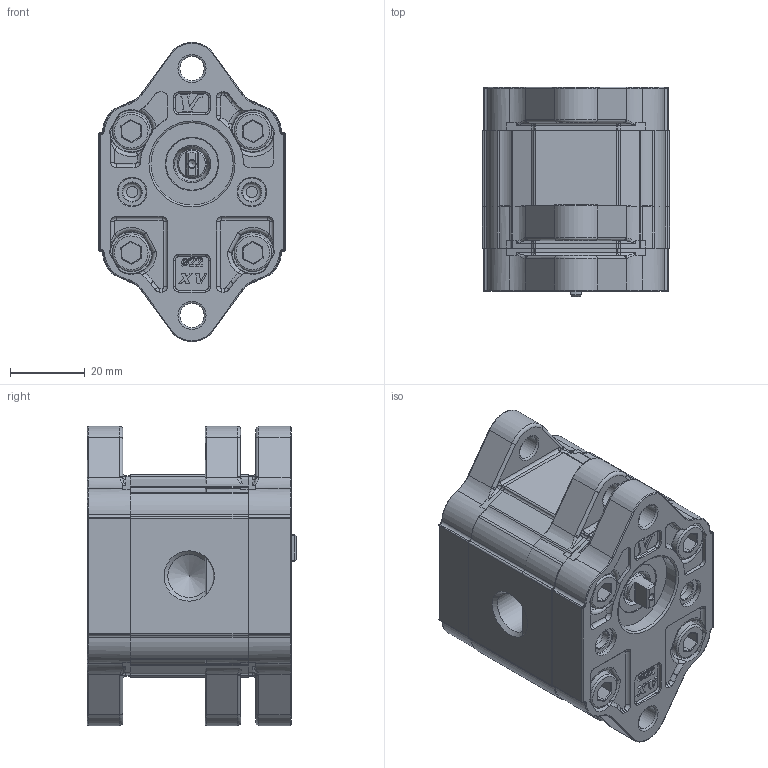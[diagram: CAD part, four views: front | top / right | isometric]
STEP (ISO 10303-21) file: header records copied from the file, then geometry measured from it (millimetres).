
FILE_DESCRIPTION( ( 'Unknown' ), '1' );
FILE_NAME( 'P:/montaggio_easy/output/STP/X0I0421MBBA.stp', 'Unknown', ( 'Unknown' ), ( 'Unknown' ), 'PSStep 14.0', 'Unknown', ' ' );
FILE_SCHEMA( ( 'AUTOMOTIVE_DESIGN { 1 0 10303 214 1 1 1 1 }' ) );
Length unit declared in the file: millimetre
Products named in the file (5): Assem1; X0I21; 0M; X0BBH31,5; XI001-A
Bounding box: 50 x 56 x 79.95 mm (x, y, z)
Surface area: 73757.1 mm2
Topology: 8 solids, 14 shells, 2214 faces, 5808 edges, 3652 vertices
Faces by surface type: plane 860, cylinder 668, torus 298, cone 150, bspline 150, extrusion 72, sphere 16
Full cylindrical faces by diameter (mm): 2 x4, 3.233 x2, 5 x8, 6.107 x2, 6.5 x12, 7.16 x4, 7.5 x4, 7.9 x8, 7.92 x2, 10 x8, 11.445 x4, 13.178 x2, 14 x4, 22 x4
Entity records: 47922 total; most frequent: CARTESIAN_POINT 12406, DIRECTION 5588, ORIENTED_EDGE 5530, EDGE_CURVE 2765, AXIS2_PLACEMENT_3D 2137, VERTEX_POINT 1788, VECTOR 1314, LINE 1278
